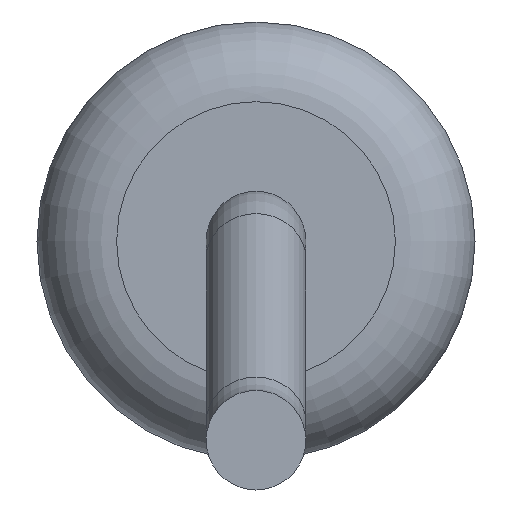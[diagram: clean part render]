
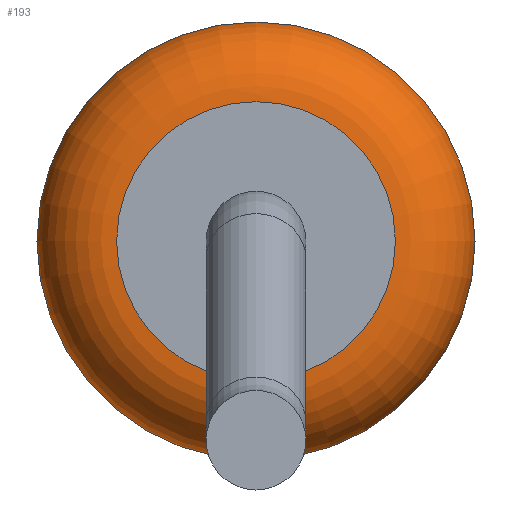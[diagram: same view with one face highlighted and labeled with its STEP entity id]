
A CAD part, left-side view. The second image highlights one B-rep face of the part: STEP entity #193.
In plain terms, the highlighted toroidal (fillet/blend) face has major radius 0.7 mm and minor radius 0.4 mm.
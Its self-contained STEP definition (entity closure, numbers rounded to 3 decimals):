
#193=ADVANCED_FACE('',(#398,#400),#402,.T.);
#398=FACE_OUTER_BOUND('',#399,.T.);
#399=EDGE_LOOP('',(#497));
#400=FACE_OUTER_BOUND('',#401,.T.);
#401=EDGE_LOOP('',(#498));
#402=TOROIDAL_SURFACE('',#403,0.7,0.4);
#403=AXIS2_PLACEMENT_3D('',#404,#405,#406);
#404=CARTESIAN_POINT('',(-2.6,0.,0.));
#405=DIRECTION('',(-1.,0.,0.));
#406=DIRECTION('',(0.,0.,1.));
#497=ORIENTED_EDGE('',*,*,#526,.T.);
#498=ORIENTED_EDGE('',*,*,#527,.F.);
#526=EDGE_CURVE('',#562,#562,#563,.T.);
#527=EDGE_CURVE('',#564,#564,#565,.T.);
#562=VERTEX_POINT('',#648);
#563=CIRCLE('',#649,1.1);
#564=VERTEX_POINT('',#653);
#565=CIRCLE('',#654,0.7);
#648=CARTESIAN_POINT('',(-2.6,0.,1.1));
#649=AXIS2_PLACEMENT_3D('',#650,#651,#652);
#650=CARTESIAN_POINT('',(-2.6,0.,0.));
#651=DIRECTION('',(-1.,0.,0.));
#652=DIRECTION('',(0.,0.,1.));
#653=CARTESIAN_POINT('',(-3.,0.,0.7));
#654=AXIS2_PLACEMENT_3D('',#655,#656,#657);
#655=CARTESIAN_POINT('',(-3.,0.,0.));
#656=DIRECTION('',(-1.,0.,0.));
#657=DIRECTION('',(0.,0.,1.));
